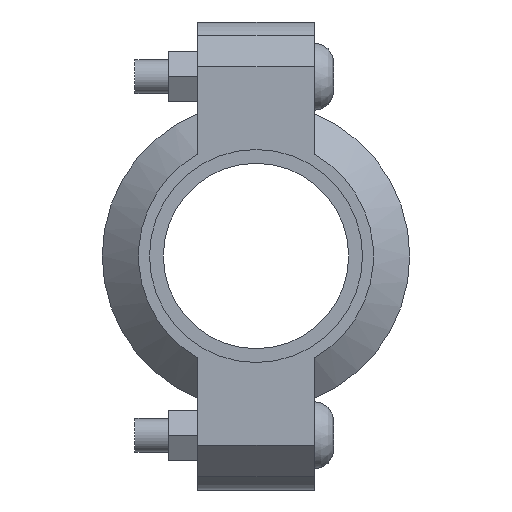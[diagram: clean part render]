
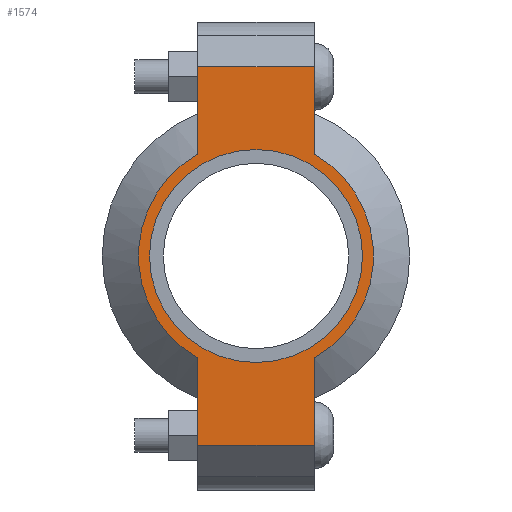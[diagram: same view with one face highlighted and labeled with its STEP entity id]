
A CAD part, left-side view. The second image highlights one B-rep face of the part: STEP entity #1574.
In plain terms, the highlighted planar face has unit normal (-1, 0, 0) as drawn and (0, 0, 1) by its records, which use the part's own axes.
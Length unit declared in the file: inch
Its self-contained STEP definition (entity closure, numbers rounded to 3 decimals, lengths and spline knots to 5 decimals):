
#198=LINE('',#2747,#291);
#206=LINE('',#2783,#299);
#213=LINE('',#2804,#306);
#222=LINE('',#2836,#315);
#223=LINE('',#2840,#316);
#224=LINE('',#2842,#317);
#291=VECTOR('',#2235,0.3937);
#299=VECTOR('',#2251,0.3937);
#306=VECTOR('',#2270,0.3937);
#315=VECTOR('',#2295,0.3937);
#316=VECTOR('',#2300,0.3937);
#317=VECTOR('',#2301,0.3937);
#373=FACE_BOUND('',#551,.T.);
#445=FACE_OUTER_BOUND('',#550,.T.);
#550=EDGE_LOOP('',(#1315,#1316,#1317,#1318,#1319,#1320,#1321,#1322));
#551=EDGE_LOOP('',(#1323));
#623=CIRCLE('',#1793,1.1875);
#649=CIRCLE('',#1852,1.31);
#650=CIRCLE('',#1853,1.31);
#715=VERTEX_POINT('',#2563);
#758=VERTEX_POINT('',#2744);
#759=VERTEX_POINT('',#2746);
#770=VERTEX_POINT('',#2778);
#771=VERTEX_POINT('',#2782);
#778=VERTEX_POINT('',#2801);
#779=VERTEX_POINT('',#2803);
#789=VERTEX_POINT('',#2839);
#790=VERTEX_POINT('',#2841);
#871=EDGE_CURVE('',#715,#715,#623,.T.);
#932=EDGE_CURVE('',#759,#758,#198,.T.);
#946=EDGE_CURVE('',#771,#770,#206,.T.);
#956=EDGE_CURVE('',#779,#778,#213,.T.);
#971=EDGE_CURVE('',#771,#758,#222,.T.);
#972=EDGE_CURVE('',#770,#779,#649,.T.);
#973=EDGE_CURVE('',#789,#778,#223,.T.);
#974=EDGE_CURVE('',#789,#790,#224,.T.);
#975=EDGE_CURVE('',#790,#759,#650,.T.);
#1315=ORIENTED_EDGE('',*,*,#971,.F.);
#1316=ORIENTED_EDGE('',*,*,#946,.T.);
#1317=ORIENTED_EDGE('',*,*,#972,.T.);
#1318=ORIENTED_EDGE('',*,*,#956,.T.);
#1319=ORIENTED_EDGE('',*,*,#973,.F.);
#1320=ORIENTED_EDGE('',*,*,#974,.T.);
#1321=ORIENTED_EDGE('',*,*,#975,.T.);
#1322=ORIENTED_EDGE('',*,*,#932,.T.);
#1323=ORIENTED_EDGE('',*,*,#871,.T.);
#1416=PLANE('',#1851);
#1574=ADVANCED_FACE('',(#445,#373),#1416,.T.);
#1793=AXIS2_PLACEMENT_3D('',#2565,#2111,#2112);
#1851=AXIS2_PLACEMENT_3D('',#2837,#2296,#2297);
#1852=AXIS2_PLACEMENT_3D('',#2838,#2298,#2299);
#1853=AXIS2_PLACEMENT_3D('',#2843,#2302,#2303);
#2111=DIRECTION('center_axis',(0.,0.,-1.));
#2112=DIRECTION('ref_axis',(-1.,0.,0.));
#2235=DIRECTION('',(-1.,0.,0.));
#2251=DIRECTION('',(1.,0.,0.));
#2270=DIRECTION('',(1.,0.,0.));
#2295=DIRECTION('',(0.,1.,0.));
#2296=DIRECTION('center_axis',(0.,0.,1.));
#2297=DIRECTION('ref_axis',(1.,0.,0.));
#2298=DIRECTION('center_axis',(0.,0.,1.));
#2299=DIRECTION('ref_axis',(-1.,0.,0.));
#2300=DIRECTION('',(0.,-1.,0.));
#2301=DIRECTION('',(-1.,0.,0.));
#2302=DIRECTION('center_axis',(0.,0.,1.));
#2303=DIRECTION('ref_axis',(-1.,0.,0.));
#2563=CARTESIAN_POINT('',(1.1875,0.,0.94));
#2565=CARTESIAN_POINT('Origin',(0.,0.,0.94));
#2744=CARTESIAN_POINT('',(-2.11,0.65,0.94));
#2746=CARTESIAN_POINT('',(-1.13737,0.65,0.94));
#2747=CARTESIAN_POINT('',(-2.61,0.65,0.94));
#2778=CARTESIAN_POINT('',(-1.13737,-0.65,0.94));
#2782=CARTESIAN_POINT('',(-2.11,-0.65,0.94));
#2783=CARTESIAN_POINT('',(2.61,-0.65,0.94));
#2801=CARTESIAN_POINT('',(2.11,-0.65,0.94));
#2803=CARTESIAN_POINT('',(1.13737,-0.65,0.94));
#2804=CARTESIAN_POINT('',(2.61,-0.65,0.94));
#2836=CARTESIAN_POINT('',(-2.11,0.325,0.94));
#2837=CARTESIAN_POINT('Origin',(0.,0.,0.94));
#2838=CARTESIAN_POINT('Origin',(0.,0.,0.94));
#2839=CARTESIAN_POINT('',(2.11,0.65,0.94));
#2840=CARTESIAN_POINT('',(2.11,-0.325,0.94));
#2841=CARTESIAN_POINT('',(1.13737,0.65,0.94));
#2842=CARTESIAN_POINT('',(-2.61,0.65,0.94));
#2843=CARTESIAN_POINT('Origin',(0.,0.,0.94));
